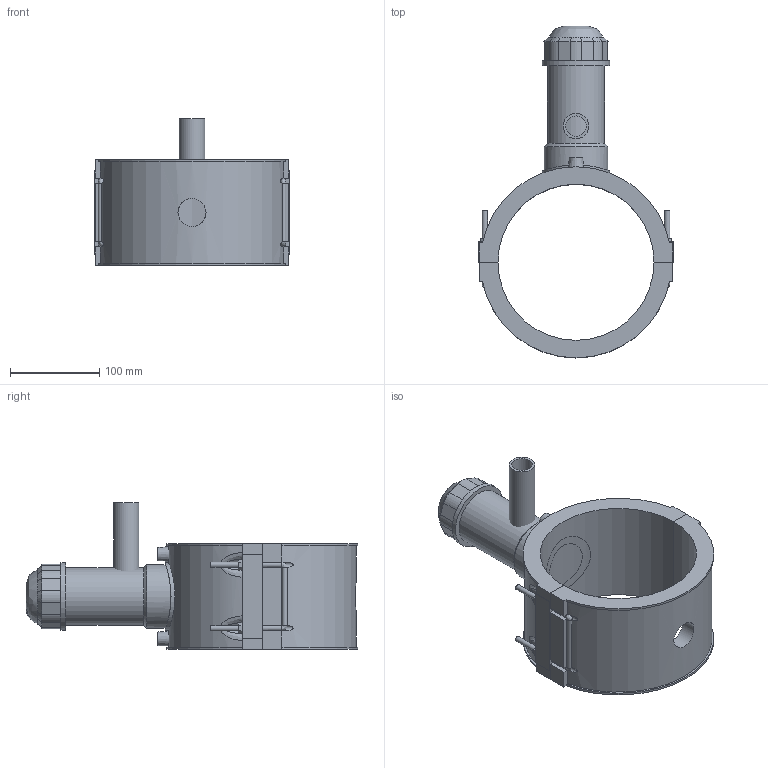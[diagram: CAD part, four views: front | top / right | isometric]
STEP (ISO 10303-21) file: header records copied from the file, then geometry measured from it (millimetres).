
FILE_DESCRIPTION(/* description */ ('PLASSON TAPPING SADDLE 6''''DIPS x 1''''CTS'),/* implementation_level */ '2;1');
FILE_NAME(/* name */ 'C:\Dropbox\KIMPROJECTS-Inventor 2019\99-16-3568-Processing Inch\ASTM ElectroFusion 2021\5963DBP_5963BUP\5963DUP3060010.ipt.stp',/* time_stamp */ '2021-08-30T09:59:04+03:00',/* author */ ('KIM'),/* organization */ (''),/* preprocessor_version */ 'ST-DEVELOPER v17.2',/* originating_system */ 'Autodesk Inventor 2019',/* authorisation */ '');
FILE_SCHEMA (('AUTOMOTIVE_DESIGN { 1 0 10303 214 3 1 1 }'));
Length unit declared in the file: inch
Products named in the file (1): 5963DUP3060010
Bounding box: 217.9 x 371.08 x 163.96 mm (x, y, z)
Volume: 1655729.1 mm3; surface area: 276081.4 mm2
Topology: 3 solids, 3 shells, 200 faces, 521 edges, 340 vertices
Faces by surface type: plane 125, cylinder 51, cone 15, bspline 9
Full cylindrical faces by diameter (mm): 4 x2, 6 x8, 10 x2, 22.76 x1, 28.45 x1, 31.36 x1, 52.524 x1, 63.78 x1, 71.283 x1, 75.035 x2
Entity records: 7416 total; most frequent: CARTESIAN_POINT 2469, ORIENTED_EDGE 1042, DIRECTION 976, EDGE_CURVE 521, VERTEX_POINT 340, AXIS2_PLACEMENT_3D 330, LINE 316, VECTOR 316
